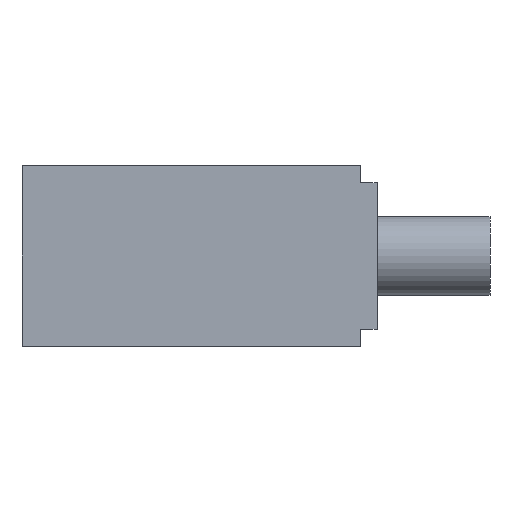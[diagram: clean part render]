
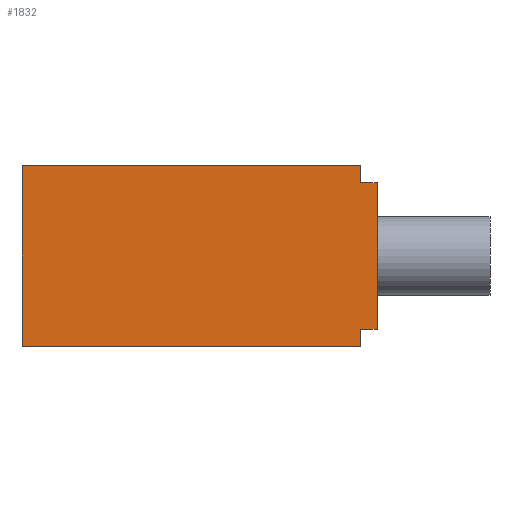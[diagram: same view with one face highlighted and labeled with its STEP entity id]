
A CAD part, front view. The second image highlights one B-rep face of the part: STEP entity #1832.
In plain terms, the highlighted planar face has unit normal (0, -1, 0) as drawn and (0, 0, -1) by its records, which use the part's own axes.
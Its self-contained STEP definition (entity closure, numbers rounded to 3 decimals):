
#180=PLANE('',#2042);
#322=FACE_OUTER_BOUND('',#464,.T.);
#464=EDGE_LOOP('',(#1682,#1683,#1684,#1685,#1686,#1687,#1688,#1689));
#512=LINE('',#2924,#638);
#516=LINE('',#2935,#642);
#524=LINE('',#2950,#650);
#556=LINE('',#3053,#682);
#572=LINE('',#3098,#698);
#588=LINE('',#3131,#714);
#591=LINE('',#3136,#717);
#592=LINE('',#3138,#718);
#638=VECTOR('',#2370,13.);
#642=VECTOR('',#2378,1.5);
#650=VECTOR('',#2386,1.5);
#682=VECTOR('',#2490,30.);
#698=VECTOR('',#2534,16.);
#714=VECTOR('',#2572,30.);
#717=VECTOR('',#2579,1.5);
#718=VECTOR('',#2582,1.5);
#911=VERTEX_POINT('',#2921);
#912=VERTEX_POINT('',#2923);
#914=VERTEX_POINT('',#2928);
#916=VERTEX_POINT('',#2932);
#917=VERTEX_POINT('',#2934);
#924=VERTEX_POINT('',#2948);
#959=VERTEX_POINT('',#3051);
#974=VERTEX_POINT('',#3096);
#1113=EDGE_CURVE('',#912,#911,#512,.T.);
#1118=EDGE_CURVE('',#917,#916,#516,.T.);
#1126=EDGE_CURVE('',#914,#924,#524,.T.);
#1175=EDGE_CURVE('',#924,#959,#556,.T.);
#1197=EDGE_CURVE('',#974,#959,#572,.T.);
#1214=EDGE_CURVE('',#974,#917,#588,.T.);
#1217=EDGE_CURVE('',#916,#912,#591,.T.);
#1218=EDGE_CURVE('',#914,#911,#592,.T.);
#1682=ORIENTED_EDGE('',*,*,#1113,.T.);
#1683=ORIENTED_EDGE('',*,*,#1218,.F.);
#1684=ORIENTED_EDGE('',*,*,#1126,.T.);
#1685=ORIENTED_EDGE('',*,*,#1175,.T.);
#1686=ORIENTED_EDGE('',*,*,#1197,.F.);
#1687=ORIENTED_EDGE('',*,*,#1214,.T.);
#1688=ORIENTED_EDGE('',*,*,#1118,.T.);
#1689=ORIENTED_EDGE('',*,*,#1217,.T.);
#1832=ADVANCED_FACE('',(#322),#180,.T.);
#2042=AXIS2_PLACEMENT_3D('',#3137,#2580,#2581);
#2370=DIRECTION('',(0.,-1.,0.));
#2378=DIRECTION('',(0.,-1.,0.));
#2386=DIRECTION('',(0.,-1.,0.));
#2490=DIRECTION('',(-1.,0.,0.));
#2534=DIRECTION('',(0.,-1.,0.));
#2572=DIRECTION('',(1.,0.,0.));
#2579=DIRECTION('',(1.,0.,0.));
#2580=DIRECTION('center_axis',(0.,0.,-1.));
#2581=DIRECTION('ref_axis',(-1.,0.,0.));
#2582=DIRECTION('',(1.,0.,0.));
#2921=CARTESIAN_POINT('',(16.5,-14.5,-40.));
#2923=CARTESIAN_POINT('',(16.5,-1.5,-40.));
#2924=CARTESIAN_POINT('',(16.5,-1.5,-40.));
#2928=CARTESIAN_POINT('',(15.,-14.5,-40.));
#2932=CARTESIAN_POINT('',(15.,-1.5,-40.));
#2934=CARTESIAN_POINT('',(15.,0.,-40.));
#2935=CARTESIAN_POINT('',(15.,0.,-40.));
#2948=CARTESIAN_POINT('',(15.,-16.,-40.));
#2950=CARTESIAN_POINT('',(15.,-14.5,-40.));
#3051=CARTESIAN_POINT('',(-15.,-16.,-40.));
#3053=CARTESIAN_POINT('',(15.,-16.,-40.));
#3096=CARTESIAN_POINT('',(-15.,0.,-40.));
#3098=CARTESIAN_POINT('',(-15.,0.,-40.));
#3131=CARTESIAN_POINT('',(-15.,0.,-40.));
#3136=CARTESIAN_POINT('',(15.,-1.5,-40.));
#3137=CARTESIAN_POINT('Origin',(15.,-1.5,-40.));
#3138=CARTESIAN_POINT('',(15.,-14.5,-40.));
